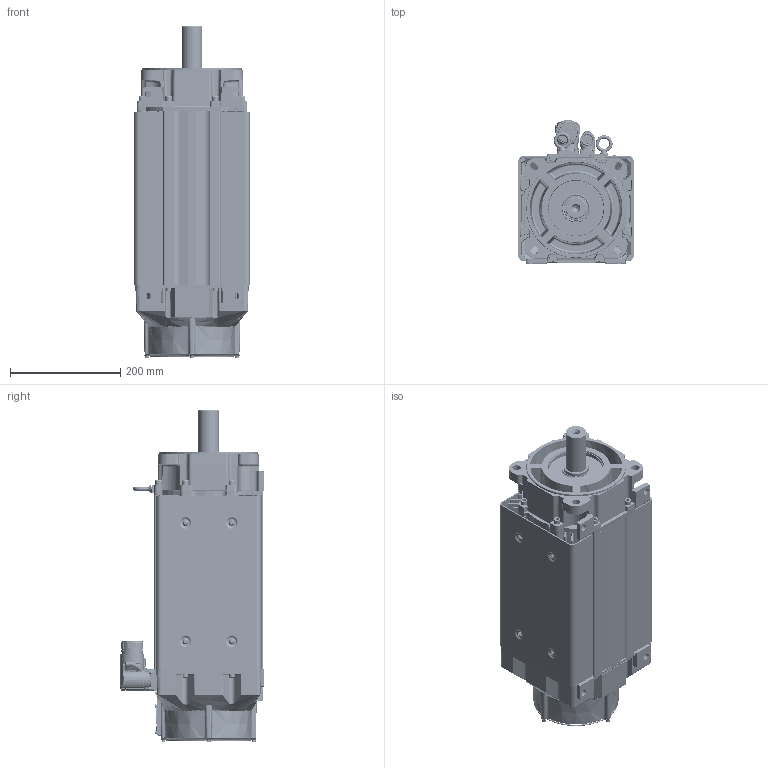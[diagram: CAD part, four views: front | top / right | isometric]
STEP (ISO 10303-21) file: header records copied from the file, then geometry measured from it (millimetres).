
FILE_DESCRIPTION((''),'2;1');
FILE_NAME('VPC-B2155D-YK72FX_ASM','2016-09-27T',('SRGaddam'),('Rockwell Automation'),'PRO/ENGINEER BY PARAMETRIC TECHNOLOGY CORPORATION, 2012480','PRO/ENGINEER BY PARAMETRIC TECHNOLOGY CORPORATION, 2012480','');
FILE_SCHEMA(('CONFIG_CONTROL_DESIGN'));
Products named in the file (46): 10001238886_AF0; 10001298482_AF22; 10001284445_ASM; CH31X150; 10001371549; 10000569218; 10001416319; 10001587021; 10001257630_AF255; 10001300098_AF227; 10001284488_ASM; 10001289764; 10002069468; 10001935397; 10001713570; 10001713572_ASM; 91290A150BR; 10001289776; CH4X050; 10001587458; 91290A115; 10001336508; 10001409703; 10001299929; 10001284567; 10001518963; 91290A148BR; 10001587431; 91290A139BR; 10000231113; 10001289808_ASM; 10001609981; 0002-5005; 10001586886; 10001369859_KEYLESS; 142403; 125284; 142403-1_ASM; 221404-Q12; M940_ASM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
Assembly tree (87 placements, depth 4):
  VPC-B2155D-YK72FX_ASM
    10001284445_ASM
      10001238886_AF0
      10001298482_AF22
    CH31X150  x8
    10001371549
    10000569218
    10001416319  x2
    10001587021  x8
    10001284488_ASM
      10001257630_AF255
      10001300098_AF227
    10001289808_ASM
      10001289764
      10002069468
      10001713572_ASM
        10001935397
        10001713570
      91290A150BR  x4
      10001289776
      CH4X050  x2
      10001587458
      91290A115  x5
      10001336508
      10001409703
      10001299929
      10001284567
      10001518963
      91290A148BR  x8
      10001587431
      91290A139BR
      10000231113
    10001609981
    0002-5005  x2
    10001586886  x6
    10001369859_KEYLESS
    M940_ASM
      142403-1_ASM
        142403
        125284
      221404-Q12  x4
    M623_ASM
      142414-1_623_ASM
        142414_623
        135798_623
      10000172464  x4
Bounding box: 210.91 x 260.15 x 601.11 mm (x, y, z)
Volume: 5901603.4 mm3; surface area: 1860373.9 mm2
Topology: 88 solids, 88 shells, 7415 faces, 17795 edges, 10859 vertices
Faces by surface type: plane 2170, cylinder 1993, bspline 1407, cone 978, torus 688, sphere 143, revolution 30, extrusion 6
Entity records: 251710 total; most frequent: CARTESIAN_POINT 116209, ORIENTED_EDGE 29418, DIRECTION 26281, EDGE_CURVE 14709, AXIS2_PLACEMENT_3D 10371, VERTEX_POINT 9098, EDGE_LOOP 6605, FACE_OUTER_BOUND 6056
